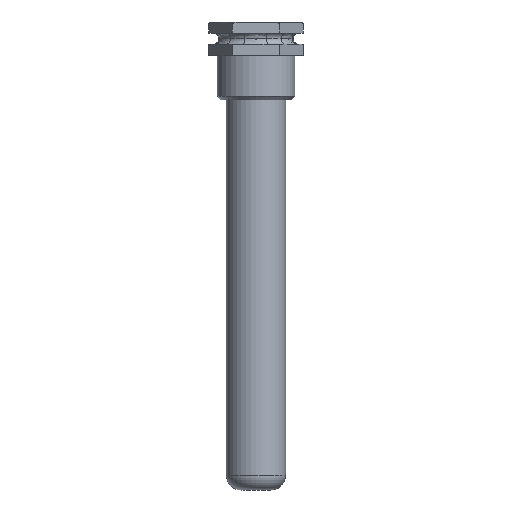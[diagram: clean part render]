
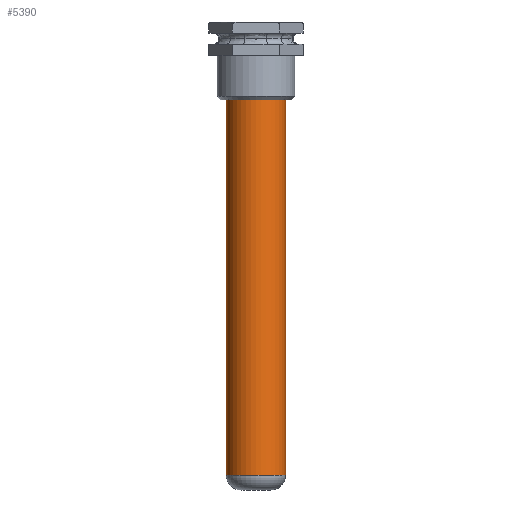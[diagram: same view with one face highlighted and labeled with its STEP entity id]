
A CAD part, front view. The second image highlights one B-rep face of the part: STEP entity #5390.
In plain terms, the highlighted cylindrical face has radius 8 mm (diameter 16 mm), a partial arc.
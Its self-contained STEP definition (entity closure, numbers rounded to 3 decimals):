
#102 = CIRCLE ( 'NONE', #571, 8. ) ;
#105 = FACE_OUTER_BOUND ( 'NONE', #5901, .T. ) ;
#167 = VERTEX_POINT ( 'NONE', #5690 ) ;
#528 = ORIENTED_EDGE ( 'NONE', *, *, #1508, .F. ) ;
#571 = AXIS2_PLACEMENT_3D ( 'NONE', #5682, #4529, #4488 ) ;
#1004 = CARTESIAN_POINT ( 'NONE',  ( 0., 0., 105. ) ) ;
#1062 = EDGE_CURVE ( 'NONE', #4347, #167, #2134, .T. ) ;
#1508 = EDGE_CURVE ( 'NONE', #4347, #2603, #2089, .T. ) ;
#1876 = CARTESIAN_POINT ( 'NONE',  ( 0., 0., 117. ) ) ;
#2089 = CIRCLE ( 'NONE', #3039, 8. ) ;
#2134 = LINE ( 'NONE', #6663, #3436 ) ;
#2151 = LINE ( 'NONE', #2617, #2810 ) ;
#2603 = VERTEX_POINT ( 'NONE', #5897 ) ;
#2617 = CARTESIAN_POINT ( 'NONE',  ( 8., 0., 117. ) ) ;
#2748 = EDGE_CURVE ( 'NONE', #2603, #6771, #2151, .T. ) ;
#2810 = VECTOR ( 'NONE', #7164, 1000. ) ;
#3039 = AXIS2_PLACEMENT_3D ( 'NONE', #1004, #7303, #5043 ) ;
#3436 = VECTOR ( 'NONE', #6699, 1000. ) ;
#3846 = ORIENTED_EDGE ( 'NONE', *, *, #2748, .F. ) ;
#4143 = DIRECTION ( 'NONE',  ( 0., 0., -1. ) ) ;
#4347 = VERTEX_POINT ( 'NONE', #6720 ) ;
#4468 = EDGE_CURVE ( 'NONE', #167, #6771, #102, .T. ) ;
#4488 = DIRECTION ( 'NONE',  ( 1., 0., 0. ) ) ;
#4529 = DIRECTION ( 'NONE',  ( 0., 0., 1. ) ) ;
#4670 = DIRECTION ( 'NONE',  ( -1., 0., 0. ) ) ;
#5043 = DIRECTION ( 'NONE',  ( 1., 0., 0. ) ) ;
#5390 = ADVANCED_FACE ( 'NONE', ( #105 ), #5804, .T. ) ;
#5620 = CARTESIAN_POINT ( 'NONE',  ( 8., 0., 4. ) ) ;
#5682 = CARTESIAN_POINT ( 'NONE',  ( 0., 0., 4. ) ) ;
#5690 = CARTESIAN_POINT ( 'NONE',  ( -8., 0., 4. ) ) ;
#5692 = AXIS2_PLACEMENT_3D ( 'NONE', #1876, #4143, #4670 ) ;
#5755 = ORIENTED_EDGE ( 'NONE', *, *, #1062, .T. ) ;
#5804 = CYLINDRICAL_SURFACE ( 'NONE', #5692, 8. ) ;
#5897 = CARTESIAN_POINT ( 'NONE',  ( 8., 0., 105. ) ) ;
#5901 = EDGE_LOOP ( 'NONE', ( #3846, #528, #5755, #6750 ) ) ;
#6663 = CARTESIAN_POINT ( 'NONE',  ( -8., 0., 117. ) ) ;
#6699 = DIRECTION ( 'NONE',  ( 0., 0., -1. ) ) ;
#6720 = CARTESIAN_POINT ( 'NONE',  ( -8., 0., 105. ) ) ;
#6750 = ORIENTED_EDGE ( 'NONE', *, *, #4468, .T. ) ;
#6771 = VERTEX_POINT ( 'NONE', #5620 ) ;
#7164 = DIRECTION ( 'NONE',  ( 0., 0., -1. ) ) ;
#7303 = DIRECTION ( 'NONE',  ( 0., 0., 1. ) ) ;
